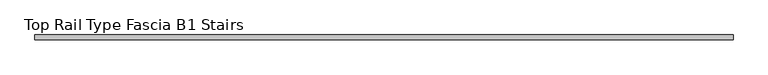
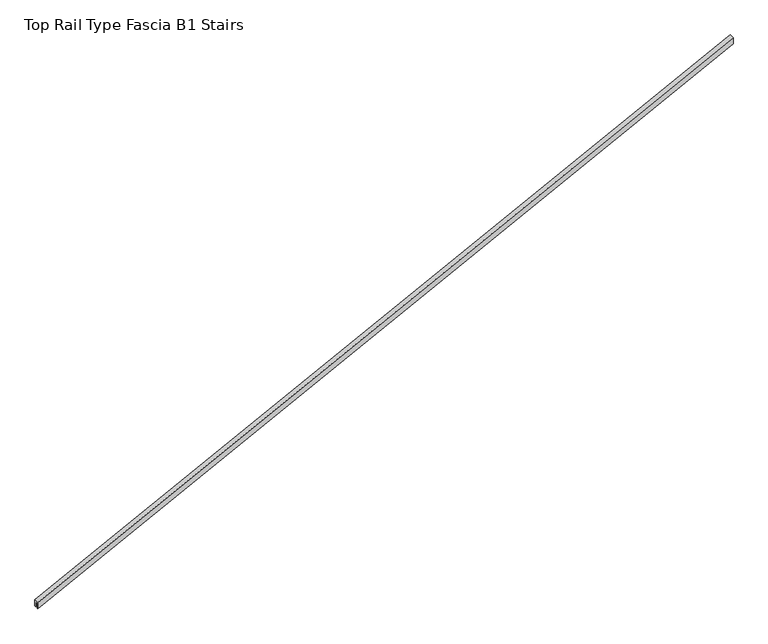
"""IFC4 building model written with IfcOpenShell, lengths in millimetres: proxy geometry, Top Rail Type Fascia B1 Stairs."""

from ifc_helpers import new_model, si_unit, origin, place, context, project, spatial, faceted_brep, source, transform, mapped, element, save


def top_rail_type_fascia_b1_stairs_71327e1f(model_context):
    return source(origin(), model_context, "Body", "Brep", [
        faceted_brep([(1428.9734986, 23849.3386645, 1279.2634433), (1428.9734986, 23871.5636645, 1279.2634433), (1428.9734986, 23871.5636645, 1250.7622547), (1428.9734986, 23866.8011645, 1250.7622547), (1428.9734986, 23866.8011645, 1273.9194705), (1428.9734986, 23854.1011645, 1273.9194705), (1428.9734986, 23854.1011645, 1250.7622547), (1428.9734986, 23849.3386645, 1250.7622547), (4578.5734986, 23849.3386645, 2882.453263), (4578.5734986, 23849.3386645, 2853.9520744), (4578.5734986, 23854.1011645, 2853.9520744), (4578.5734986, 23854.1011645, 2877.1092902), (4578.5734986, 23866.8011645, 2877.1092902), (4578.5734986, 23866.8011645, 2853.9520744), (4578.5734986, 23871.5636645, 2853.9520744), (4578.5734986, 23871.5636645, 2882.453263)], [[[0, 1, 2, 3, 4, 5, 6, 7]], [[8, 9, 10, 11, 12, 13, 14, 15]], [[1, 0, 8, 15]], [[2, 1, 15, 14]], [[3, 2, 14, 13]], [[4, 3, 13, 12]], [[5, 4, 12, 11]], [[6, 5, 11, 10]], [[7, 6, 10, 9]], [[0, 7, 9, 8]]]),
    ])


if __name__ == "__main__":
    model = new_model("IFC4")
    model_context = context("Model", 3, world=origin())
    ifc_project = project(units=[si_unit("LENGTHUNIT", "METRE", prefix="MILLI")], contexts=[model_context])
    site = spatial("IfcSite", under=ifc_project)
    building = spatial("IfcBuilding", under=site)
    placement = place(None, origin())
    top_rail_type_fascia_b1_stairs_shape = top_rail_type_fascia_b1_stairs_71327e1f(model_context)
    element("IfcBuildingElementProxy", 1, Name="Top Rail Type Fascia B1 Stairs", ObjectType="Top Rail Type Fascia B1 Stairs", at=placement, inside=building, context=model_context, shape_type="MappedRepresentation", body=[
        mapped(top_rail_type_fascia_b1_stairs_shape, transform((0.0, 0.0, 0.0), x_axis=(1.0, 0.0, 0.0), y_axis=(0.0, 1.0, 0.0), z_axis=(0.0, 0.0, 1.0))),
    ])
    save(model, "model.ifc")
